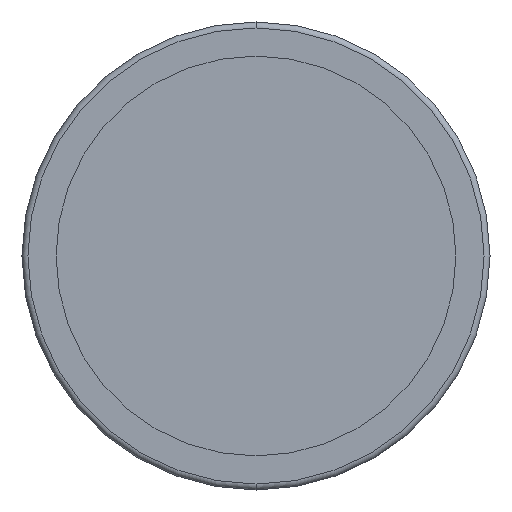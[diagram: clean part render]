
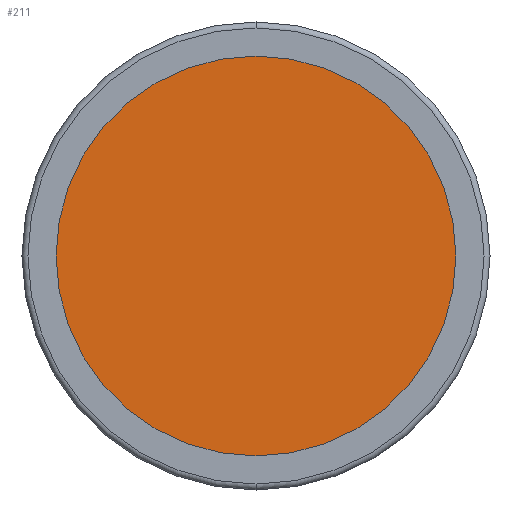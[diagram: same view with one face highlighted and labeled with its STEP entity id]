
A CAD part, front view. The second image highlights one B-rep face of the part: STEP entity #211.
In plain terms, the highlighted planar face has unit normal (0, -1, 0).
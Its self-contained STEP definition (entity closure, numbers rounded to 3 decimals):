
#57 = CARTESIAN_POINT ( 'NONE',  ( 0., -2., 0. ) ) ;
#61 = CARTESIAN_POINT ( 'NONE',  ( 0., -2., 0. ) ) ;
#211 = ADVANCED_FACE ( 'NONE', ( #2139 ), #2005, .T. ) ;
#304 = EDGE_LOOP ( 'NONE', ( #340, #512 ) ) ;
#340 = ORIENTED_EDGE ( 'NONE', *, *, #2429, .F. ) ;
#437 = DIRECTION ( 'NONE',  ( 0., 0., 1. ) ) ;
#504 = VERTEX_POINT ( 'NONE', #760 ) ;
#512 = ORIENTED_EDGE ( 'NONE', *, *, #837, .F. ) ;
#651 = CARTESIAN_POINT ( 'NONE',  ( -33.75, -2., 0. ) ) ;
#693 = CIRCLE ( 'NONE', #1716, 33.75 ) ;
#760 = CARTESIAN_POINT ( 'NONE',  ( 0., -2., 33.75 ) ) ;
#837 = EDGE_CURVE ( 'NONE', #1637, #504, #2101, .T. ) ;
#1041 = AXIS2_PLACEMENT_3D ( 'NONE', #651, #2342, #2163 ) ;
#1206 = DIRECTION ( 'NONE',  ( 0., 0., 1. ) ) ;
#1553 = DIRECTION ( 'NONE',  ( 0., 1., 0. ) ) ;
#1637 = VERTEX_POINT ( 'NONE', #1857 ) ;
#1716 = AXIS2_PLACEMENT_3D ( 'NONE', #61, #1553, #1206 ) ;
#1857 = CARTESIAN_POINT ( 'NONE',  ( 0., -2., -33.75 ) ) ;
#2005 = PLANE ( 'NONE',  #1041 ) ;
#2101 = CIRCLE ( 'NONE', #2270, 33.75 ) ;
#2114 = DIRECTION ( 'NONE',  ( 0., 1., 0. ) ) ;
#2139 = FACE_OUTER_BOUND ( 'NONE', #304, .T. ) ;
#2163 = DIRECTION ( 'NONE',  ( 0., 0., -1. ) ) ;
#2270 = AXIS2_PLACEMENT_3D ( 'NONE', #57, #2114, #437 ) ;
#2342 = DIRECTION ( 'NONE',  ( 0., -1., 0. ) ) ;
#2429 = EDGE_CURVE ( 'NONE', #504, #1637, #693, .T. ) ;
